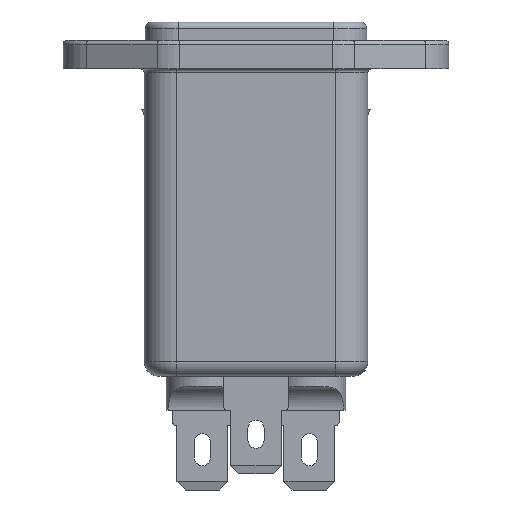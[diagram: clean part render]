
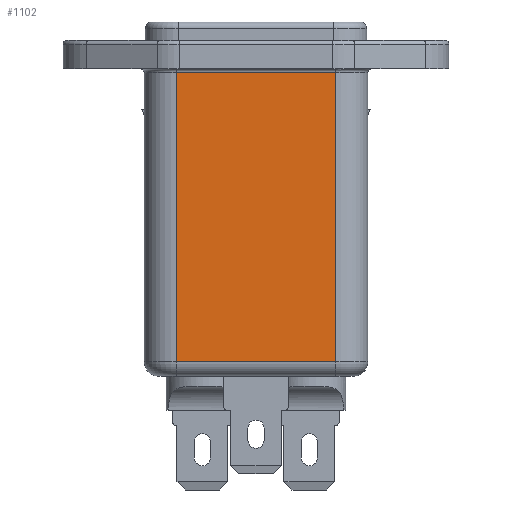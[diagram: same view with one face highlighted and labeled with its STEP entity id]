
A CAD part, left-side view. The second image highlights one B-rep face of the part: STEP entity #1102.
In plain terms, the highlighted planar face has unit normal (-1, 0, 0).
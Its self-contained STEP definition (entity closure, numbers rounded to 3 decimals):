
#541=CARTESIAN_POINT('',(25.1,33.142,47.9));
#542=VERTEX_POINT('',#541);
#560=CARTESIAN_POINT('',(25.1,52.942,47.9));
#561=VERTEX_POINT('',#560);
#569=CARTESIAN_POINT('',(25.1,52.942,47.9));
#570=DIRECTION('',(0.0,-1.0,0.0));
#571=VECTOR('',#570,19.8);
#572=LINE('',#569,#571);
#573=EDGE_CURVE('',#561,#542,#572,.T.);
#1060=CARTESIAN_POINT('',(25.1,33.142,11.95));
#1061=VERTEX_POINT('',#1060);
#1062=CARTESIAN_POINT('',(25.1,33.142,11.95));
#1063=DIRECTION('',(0.0,0.0,1.0));
#1064=VECTOR('',#1063,35.95);
#1065=LINE('',#1062,#1064);
#1066=EDGE_CURVE('',#1061,#542,#1065,.T.);
#1079=CARTESIAN_POINT('',(25.1,33.142,10.15));
#1080=DIRECTION('',(-1.0,0.0,0.0));
#1081=DIRECTION('',(0.0,0.0,1.0));
#1082=AXIS2_PLACEMENT_3D('',#1079,#1080,#1081);
#1083=PLANE('',#1082);
#1084=ORIENTED_EDGE('',*,*,#573,.F.);
#1085=CARTESIAN_POINT('',(25.1,52.942,11.95));
#1086=VERTEX_POINT('',#1085);
#1087=CARTESIAN_POINT('',(25.1,52.942,11.95));
#1088=DIRECTION('',(0.0,0.0,1.0));
#1089=VECTOR('',#1088,35.95);
#1090=LINE('',#1087,#1089);
#1091=EDGE_CURVE('',#1086,#561,#1090,.T.);
#1092=ORIENTED_EDGE('',*,*,#1091,.F.);
#1093=CARTESIAN_POINT('',(25.1,33.142,11.95));
#1094=DIRECTION('',(0.0,1.0,0.0));
#1095=VECTOR('',#1094,19.8);
#1096=LINE('',#1093,#1095);
#1097=EDGE_CURVE('',#1061,#1086,#1096,.T.);
#1098=ORIENTED_EDGE('',*,*,#1097,.F.);
#1099=ORIENTED_EDGE('',*,*,#1066,.T.);
#1100=EDGE_LOOP('',(#1084,#1092,#1098,#1099));
#1101=FACE_OUTER_BOUND('',#1100,.T.);
#1102=ADVANCED_FACE('',(#1101),#1083,.T.);
